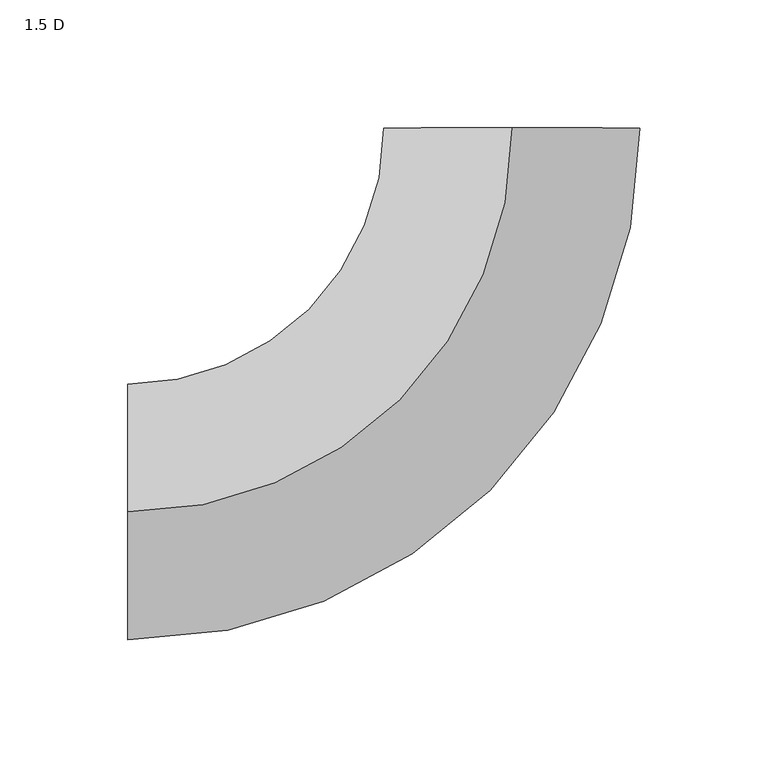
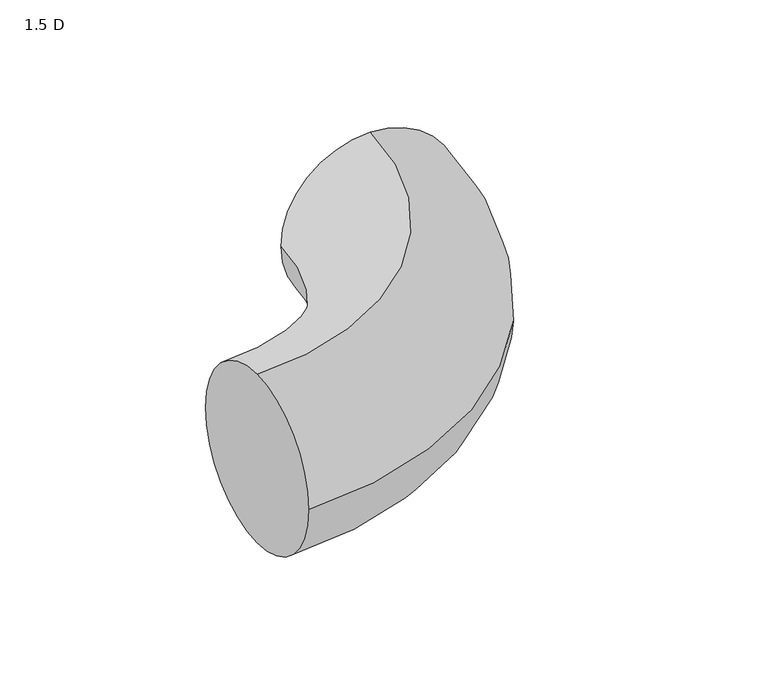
"""IFC4 building model written with IfcOpenShell, lengths in millimetres: duct fitting geometry, M_Отвод круглого сечения : 1.5 D."""

from ifc_helpers import new_model, si_unit, point, frame, origin, place, context, project, spatial, circle_curve, ellipse_curve, trimmed, source, transform, mapped, element, save
from ifc_brep_helpers import plane_surface, revolved_surface, advanced_brep


def duct_fitting_1_5_d_8d1b72b4(model_context):
    return source(origin(), model_context, "Body", "AdvancedBrep", [
        advanced_brep(
        [(-150.0, 0.0, 50.0), (-150.0, 50.0, 0.0), (-150.0, 0.0, -50.0), (-150.0, -50.0, 0.0), (0.0, 150.0, 50.0), (50.0, 150.0, 0.0), (0.0, 150.0, -50.0), (-50.0, 150.0, 0.0)],
        [
            (0, 1, circle_curve(frame((-150.0, 0.0, 0.0), z_axis=(-1.0, 0.0, 0.0), x_axis=(0.0, 1.0, 0.0)), 50.0)),
            (1, 2, circle_curve(frame((-150.0, 0.0, 0.0), z_axis=(-1.0, 0.0, 0.0), x_axis=(0.0, 1.0, 0.0)), 50.0)),
            (2, 3, circle_curve(frame((-150.0, 0.0, 0.0), z_axis=(-1.0, 0.0, 0.0), x_axis=(0.0, 1.0, 0.0)), 50.0)),
            (3, 0, circle_curve(frame((-150.0, 0.0, 0.0), z_axis=(-1.0, 0.0, 0.0), x_axis=(0.0, 1.0, 0.0)), 50.0)),
            (4, 5, circle_curve(frame((0.0, 150.0, 0.0), z_axis=(0.0, 1.0, 0.0), x_axis=(-1.0, 0.0, 0.0)), 50.0)),
            (5, 6, circle_curve(frame((0.0, 150.0, 0.0), z_axis=(0.0, 1.0, 0.0), x_axis=(-1.0, 0.0, 0.0)), 50.0)),
            (6, 7, circle_curve(frame((0.0, 150.0, 0.0), z_axis=(0.0, 1.0, 0.0), x_axis=(-1.0, 0.0, 0.0)), 50.0)),
            (7, 4, circle_curve(frame((0.0, 150.0, 0.0), z_axis=(0.0, 1.0, 0.0), x_axis=(-1.0, 0.0, 0.0)), 50.0)),
            (7, 1, circle_curve(frame((-150.0, 150.0, 0.0), z_axis=(0.0, 0.0, -1.0), x_axis=(0.0, -1.0, 0.0)), 100.0)),
            (0, 4, circle_curve(frame((-150.0, 150.0, 50.0), z_axis=(0.0, 0.0, 1.0), x_axis=(0.0, -1.0, 0.0)), 150.0)),
            (6, 2, circle_curve(frame((-150.0, 150.0, -50.0), z_axis=(0.0, 0.0, -1.0), x_axis=(0.0, -1.0, 0.0)), 150.0)),
            (5, 3, circle_curve(frame((-150.0, 150.0, 0.0), z_axis=(0.0, 0.0, -1.0), x_axis=(0.0, -1.0, 0.0)), 200.0)),
        ],
        [
            plane_surface(frame((-150.0, 0.0, 0.0), z_axis=(-1.0, 0.0, 0.0), x_axis=(0.0, 0.0, 1.0))),
            plane_surface(frame((0.0, 150.0, 0.0), z_axis=(0.0, 1.0, 0.0), x_axis=(0.0, 0.0, 1.0))),
            revolved_surface(trimmed(ellipse_curve(frame((-150.0, 0.0, 0.0), z_axis=(-1.0, 0.0, 0.0), x_axis=(0.0, 1.0, 0.0)), 50.0, 50.0), [point((-150.0, 0.0, 50.0))], [point((-150.0, 50.0, 0.0))], True, "CARTESIAN"), (-150.0, 150.0, 0.0), (0.0, 0.0, 1.0)),
            revolved_surface(trimmed(ellipse_curve(frame((-150.0, 0.0, 0.0), z_axis=(-1.0, 0.0, 0.0), x_axis=(0.0, 1.0, 0.0)), 50.0, 50.0), [point((-150.0, 50.0, 0.0))], [point((-150.0, 0.0, -50.0))], True, "CARTESIAN"), (-150.0, 150.0, 0.0), (0.0, 0.0, 1.0)),
            revolved_surface(trimmed(ellipse_curve(frame((-150.0, 0.0, 0.0), z_axis=(-1.0, 0.0, 0.0), x_axis=(0.0, 1.0, 0.0)), 50.0, 50.0), [point((-150.0, 0.0, -50.0))], [point((-150.0, -50.0, 0.0))], True, "CARTESIAN"), (-150.0, 150.0, 0.0), (0.0, 0.0, 1.0)),
            revolved_surface(trimmed(ellipse_curve(frame((-150.0, 0.0, 0.0), z_axis=(-1.0, 0.0, 0.0), x_axis=(0.0, 1.0, 0.0)), 50.0, 50.0), [point((-150.0, -50.0, 0.0))], [point((-150.0, 0.0, 50.0))], True, "CARTESIAN"), (-150.0, 150.0, 0.0), (0.0, 0.0, 1.0)),
        ],
        [
            (0, [[1, 2, 3, 4]]),
            (1, [[5, 6, 7, 8]]),
            (2, [[9, -1, 10, -8]]),
            (3, [[11, -2, -9, -7]]),
            (4, [[12, -3, -11, -6]]),
            (5, [[-10, -4, -12, -5]]),
        ],
    ),
    ])


if __name__ == "__main__":
    model = new_model("IFC4")
    model_context = context("Model", 3, world=origin())
    ifc_project = project(units=[si_unit("LENGTHUNIT", "METRE", prefix="MILLI")], contexts=[model_context])
    site = spatial("IfcSite", under=ifc_project)
    building = spatial("IfcBuilding", under=site)
    placement = place(None, origin())
    duct_fitting_1_5_d_shape = duct_fitting_1_5_d_8d1b72b4(model_context)
    element("IfcDuctFitting", 1, ObjectType="M_Отвод круглого сечения : 1.5 D", at=placement, inside=building, context=model_context, shape_type="MappedRepresentation", body=[
        mapped(duct_fitting_1_5_d_shape, transform((0.0, 0.0, 0.0), x_axis=(1.0, 0.0, 0.0), y_axis=(0.0, 1.0, 0.0), z_axis=(0.0, 0.0, 1.0))),
    ])
    save(model, "model.ifc")
